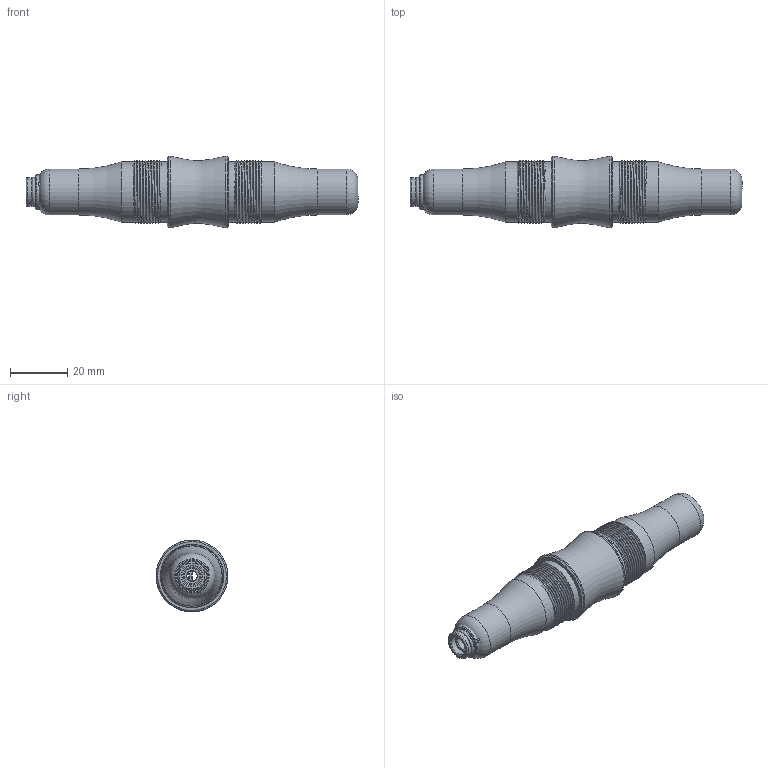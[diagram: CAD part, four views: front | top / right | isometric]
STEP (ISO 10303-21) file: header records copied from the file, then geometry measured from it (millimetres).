
FILE_DESCRIPTION( ( 'Unknown' ), '1' );
FILE_NAME( 'C:/Documents and Settings/Owner/官帕 拳搁/VC253P.stp', 'Unknown', ( 'Unknown' ), ( 'Unknown' ), 'PSStep 10.0', 'Unknown', ' ' );
FILE_SCHEMA( ( 'AUTOMOTIVE_DESIGN { 1 0 10303 214 1 1 1 1 }' ) );
Length unit declared in the file: millimetre
Products named in the file (9): Assem1; Nozzle Body-253; Check valve-2.5-3; Check valve-2.5-2; Nozzle-C2.54; Housing; Stopring-253; VC253-Plug
Bounding box: 115.6 x 25 x 25 mm (x, y, z)
Volume: 36637.9 mm3; surface area: 48704.3 mm2
Topology: 16 solids, 16 shells, 1198 faces, 2958 edges, 1816 vertices
Faces by surface type: plane 504, cylinder 374, torus 234, sphere 56, cone 18, bspline 12
Full cylindrical faces by diameter (mm): 3.6 x2, 5.4 x4, 5.5 x2, 6.6 x2, 7 x2, 7.4 x6, 8 x2, 8.2 x4, 8.4 x2, 8.404 x2, 8.6 x8, 9 x4, 9.2 x2, 9.6 x2, 9.9 x4, 10 x14, 10.2 x2, 10.4 x2, 11 x10, 12 x36, 13 x4, 13.8 x2, 14 x2, 16 x4, 17 x2, 19.9 x2, 20.938 x2, 25 x2
Entity records: 24364 total; most frequent: CARTESIAN_POINT 6221, DIRECTION 2845, ORIENTED_EDGE 2542, EDGE_CURVE 1271, AXIS2_PLACEMENT_3D 1124, VERTEX_POINT 857, EDGE_LOOP 802, FACE_OUTER_BOUND 706
